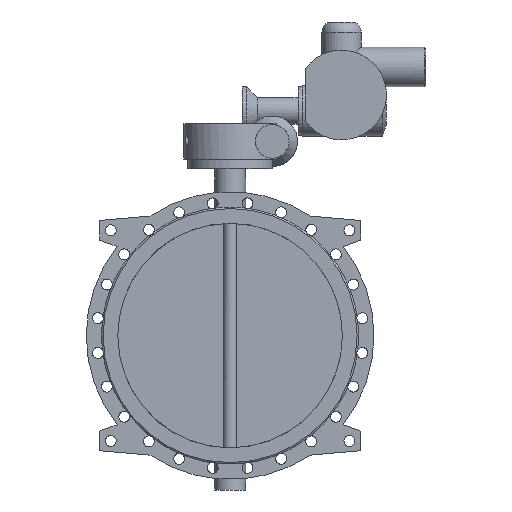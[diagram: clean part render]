
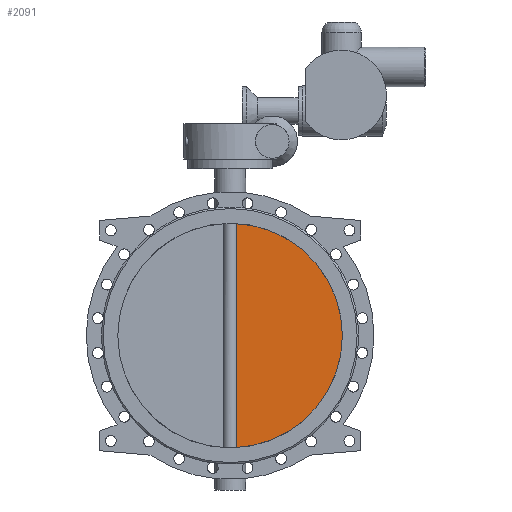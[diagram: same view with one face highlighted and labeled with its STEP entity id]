
A CAD part, front view. The second image highlights one B-rep face of the part: STEP entity #2091.
In plain terms, the highlighted planar face has unit normal (0, -1, 0).
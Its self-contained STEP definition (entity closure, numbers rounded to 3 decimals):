
#2091=ADVANCED_FACE('',(#4164),#4166,.T.);
#4164=FACE_BOUND('',#4165,.T.);
#4165=EDGE_LOOP('',(#5394,#5395));
#4166=PLANE('',#4167);
#4167=AXIS2_PLACEMENT_3D('',#4168,#4169,#4170);
#4168=CARTESIAN_POINT('',(0.,-7.5,0.));
#4169=DIRECTION('',(0.,-1.,0.));
#4170=DIRECTION('',(1.,0.,0.));
#5394=ORIENTED_EDGE('',*,*,#6001,.T.);
#5395=ORIENTED_EDGE('',*,*,#6011,.T.);
#6001=EDGE_CURVE('',#7067,#7068,#7069,.F.);
#6011=EDGE_CURVE('',#7068,#7067,#7087,.T.);
#7067=VERTEX_POINT('',#15581);
#7068=VERTEX_POINT('',#15582);
#7069=CIRCLE('',#15583,400.);
#7087=LINE('',#16056,#16057);
#15581=CARTESIAN_POINT('',(23.848,-7.5,-399.288));
#15582=CARTESIAN_POINT('',(23.848,-7.5,399.288));
#15583=AXIS2_PLACEMENT_3D('',#15584,#15585,#15586);
#15584=CARTESIAN_POINT('',(0.,-7.5,0.));
#15585=DIRECTION('',(0.,1.,0.));
#15586=DIRECTION('',(0.06,0.,0.998));
#16056=CARTESIAN_POINT('',(23.848,-7.5,399.288));
#16057=VECTOR('',#16058,1.);
#16058=DIRECTION('',(0.,0.,-1.));
